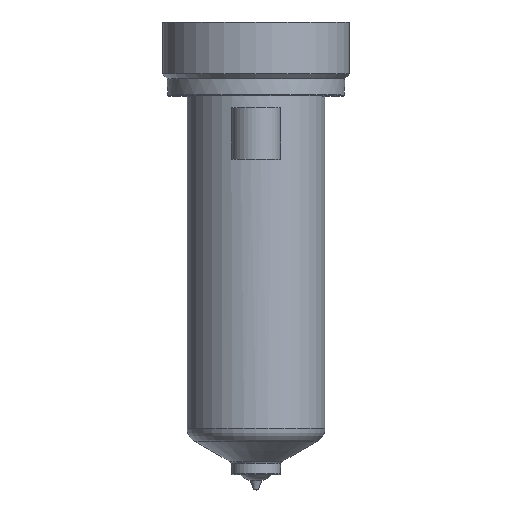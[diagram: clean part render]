
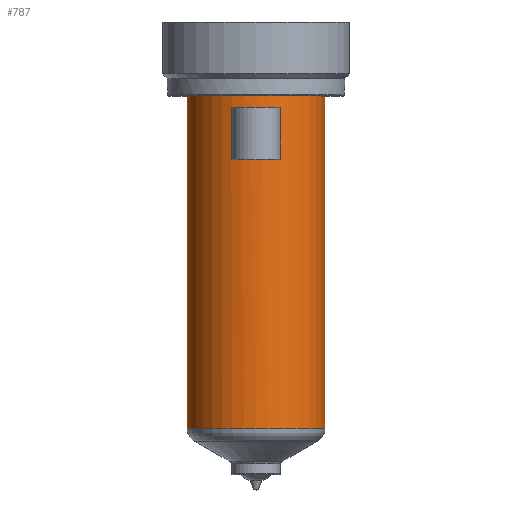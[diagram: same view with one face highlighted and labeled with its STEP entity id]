
A CAD part, top view. The second image highlights one B-rep face of the part: STEP entity #787.
In plain terms, the highlighted cylindrical face has radius 14 mm (diameter 28 mm), a partial arc.
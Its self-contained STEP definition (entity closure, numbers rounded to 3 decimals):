
#195=DIRECTION('',(0.,-1.,0.));
#196=VECTOR('',#195,67.483);
#197=CARTESIAN_POINT('',(14.,0.,0.));
#198=LINE('',#197,#196);
#199=CARTESIAN_POINT('',(0.,-67.483,0.));
#200=DIRECTION('',(0.,1.,0.));
#201=DIRECTION('',(-1.,0.,0.));
#202=AXIS2_PLACEMENT_3D('',#199,#200,#201);
#204=DIRECTION('',(0.,1.,0.));
#205=VECTOR('',#204,67.483);
#206=CARTESIAN_POINT('',(-14.,-67.483,0.));
#207=LINE('',#206,#205);
#208=CARTESIAN_POINT('',(0.,0.,0.));
#209=DIRECTION('',(0.,1.,0.));
#210=DIRECTION('',(-1.,0.,0.));
#211=AXIS2_PLACEMENT_3D('',#208,#209,#210);
#357=DIRECTION('',(0.,-1.,0.));
#358=VECTOR('',#357,10.5);
#359=CARTESIAN_POINT('',(-5.,-2.5,13.077));
#360=LINE('',#359,#358);
#365=CARTESIAN_POINT('',(0.,-13.,0.));
#366=DIRECTION('',(0.,1.,0.));
#367=DIRECTION('',(-0.357,0.,0.934));
#368=AXIS2_PLACEMENT_3D('',#365,#366,#367);
#400=CARTESIAN_POINT('',(0.,-2.5,0.));
#401=DIRECTION('',(0.,-1.,0.));
#402=DIRECTION('',(0.357,0.,0.934));
#403=AXIS2_PLACEMENT_3D('',#400,#401,#402);
#405=DIRECTION('',(0.,-1.,0.));
#406=VECTOR('',#405,10.5);
#407=CARTESIAN_POINT('',(5.,-2.5,13.077));
#408=LINE('',#407,#406);
#466=CARTESIAN_POINT('',(-14.,0.,0.));
#467=CARTESIAN_POINT('',(14.,0.,0.));
#468=VERTEX_POINT('',#466);
#469=VERTEX_POINT('',#467);
#478=CARTESIAN_POINT('',(5.,-2.5,13.077));
#479=VERTEX_POINT('',#478);
#480=CARTESIAN_POINT('',(-5.,-2.5,13.077));
#481=VERTEX_POINT('',#480);
#518=CARTESIAN_POINT('',(14.,-67.483,0.));
#519=VERTEX_POINT('',#518);
#528=CARTESIAN_POINT('',(-14.,-67.483,0.));
#529=VERTEX_POINT('',#528);
#546=CARTESIAN_POINT('',(-5.,-13.,13.077));
#547=CARTESIAN_POINT('',(5.,-13.,13.077));
#548=VERTEX_POINT('',#546);
#549=VERTEX_POINT('',#547);
#765=CARTESIAN_POINT('',(0.,16.4,0.));
#766=DIRECTION('',(0.,-1.,0.));
#767=DIRECTION('',(-1.,0.,0.));
#768=AXIS2_PLACEMENT_3D('',#765,#766,#767);
#769=CYLINDRICAL_SURFACE('',#768,14.);
#770=ORIENTED_EDGE('',*,*,#759,.T.);
#772=ORIENTED_EDGE('',*,*,#771,.F.);
#773=ORIENTED_EDGE('',*,*,#755,.T.);
#774=ORIENTED_EDGE('',*,*,#745,.T.);
#775=EDGE_LOOP('',(#770,#772,#773,#774));
#776=FACE_OUTER_BOUND('',#775,.F.);
#778=ORIENTED_EDGE('',*,*,#777,.T.);
#780=ORIENTED_EDGE('',*,*,#779,.T.);
#782=ORIENTED_EDGE('',*,*,#781,.F.);
#784=ORIENTED_EDGE('',*,*,#783,.T.);
#785=EDGE_LOOP('',(#778,#780,#782,#784));
#786=FACE_BOUND('',#785,.F.);
#787=ADVANCED_FACE('',(#776,#786),#769,.T.);
#203=CIRCLE('',#202,14.);
#212=CIRCLE('',#211,14.);
#369=CIRCLE('',#368,14.);
#404=CIRCLE('',#403,14.);
#745=EDGE_CURVE('',#468,#469,#212,.T.);
#755=EDGE_CURVE('',#529,#468,#207,.T.);
#759=EDGE_CURVE('',#469,#519,#198,.T.);
#771=EDGE_CURVE('',#529,#519,#203,.T.);
#777=EDGE_CURVE('',#481,#548,#360,.T.);
#779=EDGE_CURVE('',#548,#549,#369,.T.);
#781=EDGE_CURVE('',#479,#549,#408,.T.);
#783=EDGE_CURVE('',#479,#481,#404,.T.);
